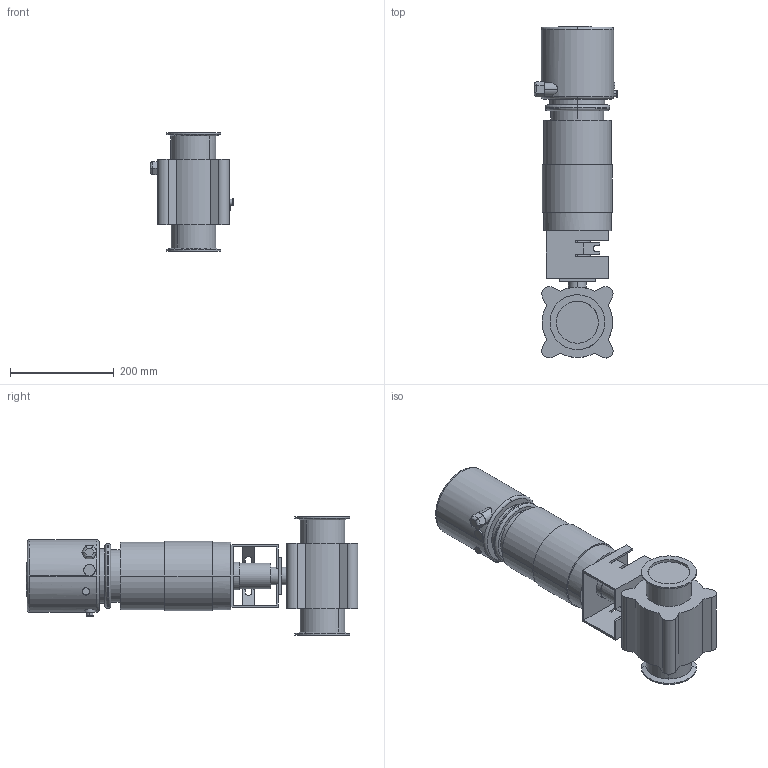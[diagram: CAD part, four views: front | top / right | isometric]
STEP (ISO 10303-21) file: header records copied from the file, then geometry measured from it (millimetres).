
FILE_DESCRIPTION(('Creo Elements/Direct Modeling STEP Export'),'2;1');
FILE_NAME('BLV1-80-NC-12CL-CU4.stp','2019-05-09T14:34:57',(''),(''),'Creo Elements/Direct Modeling STEP processor for AP214 (Solid Model)','Creo Elements/Direct Modeling 19.0F 14-Feb-2017 (C) Parametric Technology GmbH','');
FILE_SCHEMA(('AUTOMOTIVE_DESIGN { 1 0 10303 214 1 1 1 1 }'));
Length unit declared in the file: millimetre
Products named in the file (2): BLV1-80-NC-12CL-CU4
Assembly tree (1 placements, depth 2):
  BLV1-80-NC-12CL-CU4
    BLV1-80-NC-12CL-CU4
Bounding box: 161.4 x 640.49 x 229 mm (x, y, z)
Volume: 8594145.9 mm3; surface area: 447796.4 mm2
Topology: 1 solids, 2 shells, 257 faces, 665 edges, 436 vertices
Faces by surface type: plane 116, cylinder 94, extrusion 33, torus 10, cone 4
Entity records: 11020 total; most frequent: CARTESIAN_POINT 5176, ORIENTED_EDGE 1332, DIRECTION 1019, EDGE_CURVE 666, VERTEX_POINT 436, VECTOR 349, AXIS2_PLACEMENT_3D 335, LINE 316
